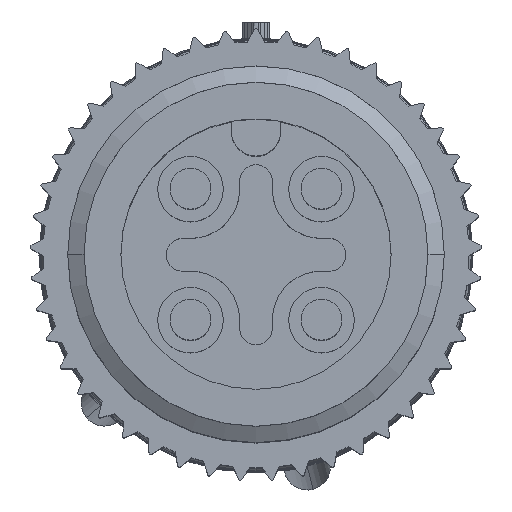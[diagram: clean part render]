
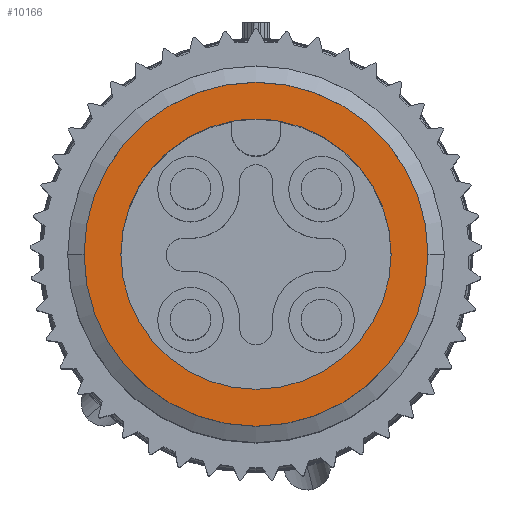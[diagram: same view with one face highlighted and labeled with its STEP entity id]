
A CAD part, top view. The second image highlights one B-rep face of the part: STEP entity #10166.
In plain terms, the highlighted planar face has unit normal (0, 0, 1).
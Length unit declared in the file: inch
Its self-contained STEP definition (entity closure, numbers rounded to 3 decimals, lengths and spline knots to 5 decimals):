
#2443=CARTESIAN_POINT('',(0.,0.,0.));
#2444=DIRECTION('',(0.,0.,1.));
#2445=DIRECTION('',(0.,1.,0.));
#2446=AXIS2_PLACEMENT_3D('',#2443,#2444,#2445);
#2448=CARTESIAN_POINT('',(0.,0.,0.));
#2449=DIRECTION('',(0.,0.,1.));
#2450=DIRECTION('',(0.,-1.,0.));
#2451=AXIS2_PLACEMENT_3D('',#2448,#2449,#2450);
#2453=CARTESIAN_POINT('',(0.,0.,0.));
#2454=DIRECTION('',(0.,0.,1.));
#2455=DIRECTION('',(0.,1.,0.));
#2456=AXIS2_PLACEMENT_3D('',#2453,#2454,#2455);
#2458=CARTESIAN_POINT('',(0.,0.,0.));
#2459=DIRECTION('',(0.,0.,1.));
#2460=DIRECTION('',(0.,-1.,0.));
#2461=AXIS2_PLACEMENT_3D('',#2458,#2459,#2460);
#7268=CARTESIAN_POINT('',(0.,0.165,0.));
#7269=CARTESIAN_POINT('',(0.,-0.165,0.));
#7270=VERTEX_POINT('',#7268);
#7271=VERTEX_POINT('',#7269);
#7751=CARTESIAN_POINT('',(0.,0.21,0.));
#7752=CARTESIAN_POINT('',(0.,-0.21,0.));
#7753=VERTEX_POINT('',#7751);
#7754=VERTEX_POINT('',#7752);
#10150=CARTESIAN_POINT('',(0.,0.,0.));
#10151=DIRECTION('',(0.,0.,1.));
#10152=DIRECTION('',(0.,1.,0.));
#10153=AXIS2_PLACEMENT_3D('',#10150,#10151,#10152);
#10154=PLANE('',#10153);
#10155=ORIENTED_EDGE('',*,*,#10138,.F.);
#10157=ORIENTED_EDGE('',*,*,#10156,.F.);
#10158=EDGE_LOOP('',(#10155,#10157));
#10159=FACE_OUTER_BOUND('',#10158,.F.);
#10161=ORIENTED_EDGE('',*,*,#10160,.T.);
#10163=ORIENTED_EDGE('',*,*,#10162,.T.);
#10164=EDGE_LOOP('',(#10161,#10163));
#10165=FACE_BOUND('',#10164,.F.);
#10166=ADVANCED_FACE('',(#10159,#10165),#10154,.T.);
#2447=CIRCLE('',#2446,0.165);
#2452=CIRCLE('',#2451,0.165);
#2457=CIRCLE('',#2456,0.21);
#2462=CIRCLE('',#2461,0.21);
#10138=EDGE_CURVE('',#7753,#7754,#2457,.T.);
#10156=EDGE_CURVE('',#7754,#7753,#2462,.T.);
#10160=EDGE_CURVE('',#7270,#7271,#2447,.T.);
#10162=EDGE_CURVE('',#7271,#7270,#2452,.T.);
